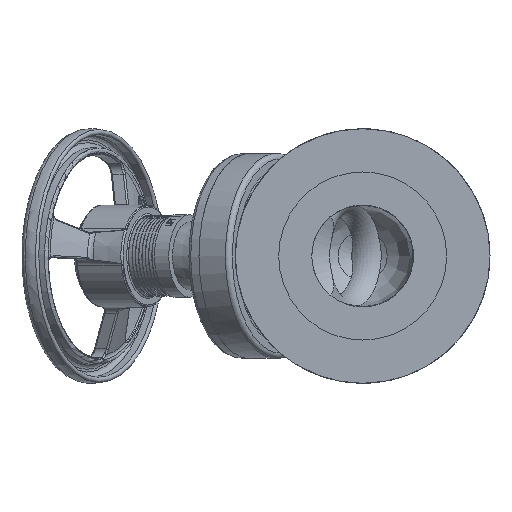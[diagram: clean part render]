
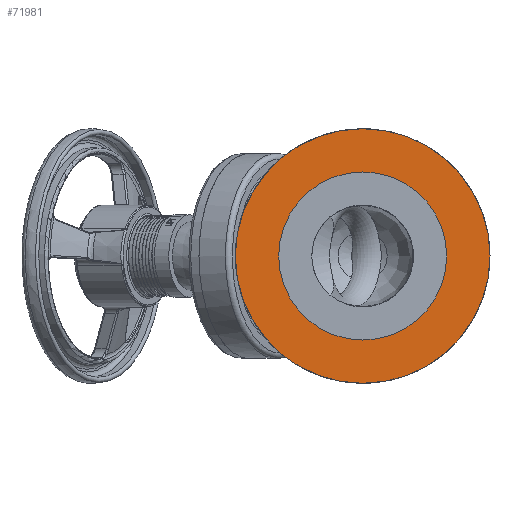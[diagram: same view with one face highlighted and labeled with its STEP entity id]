
A CAD part, left-side view. The second image highlights one B-rep face of the part: STEP entity #71981.
In plain terms, the highlighted planar face has unit normal (-1, 0, 0).
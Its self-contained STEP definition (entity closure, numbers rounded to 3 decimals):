
#64036=CARTESIAN_POINT('',(-307.,-100.,0.0));
#64037=VERTEX_POINT('',#64036);
#64038=CARTESIAN_POINT('',(-307.,0.,0.0));
#64039=DIRECTION('',(-1.0,0.0,0.0));
#64040=DIRECTION('',(0.0,-1.0,0.0));
#64041=AXIS2_PLACEMENT_3D('',#64038,#64039,#64040);
#64042=CIRCLE('',#64041,100.);
#64043=EDGE_CURVE('',#64037,#64037,#64042,.T.);
#71962=CARTESIAN_POINT('',(-307.,-83.,0.0));
#71963=DIRECTION('',(-1.0,0.0,0.0));
#71964=DIRECTION('',(0.0,0.0,1.0));
#71965=AXIS2_PLACEMENT_3D('',#71962,#71963,#71964);
#71966=PLANE('',#71965);
#71967=ORIENTED_EDGE('',*,*,#64043,.T.);
#71968=EDGE_LOOP('',(#71967));
#71969=FACE_OUTER_BOUND('',#71968,.T.);
#71970=CARTESIAN_POINT('',(-307.,-66.,0.0));
#71971=VERTEX_POINT('',#71970);
#71972=CARTESIAN_POINT('',(-307.,0.,0.0));
#71973=DIRECTION('',(-1.0,0.0,0.0));
#71974=DIRECTION('',(0.0,-1.0,0.0));
#71975=AXIS2_PLACEMENT_3D('',#71972,#71973,#71974);
#71976=CIRCLE('',#71975,66.);
#71977=EDGE_CURVE('',#71971,#71971,#71976,.T.);
#71978=ORIENTED_EDGE('',*,*,#71977,.F.);
#71979=EDGE_LOOP('',(#71978));
#71980=FACE_BOUND('',#71979,.T.);
#71981=ADVANCED_FACE('',(#71969,#71980),#71966,.T.);
